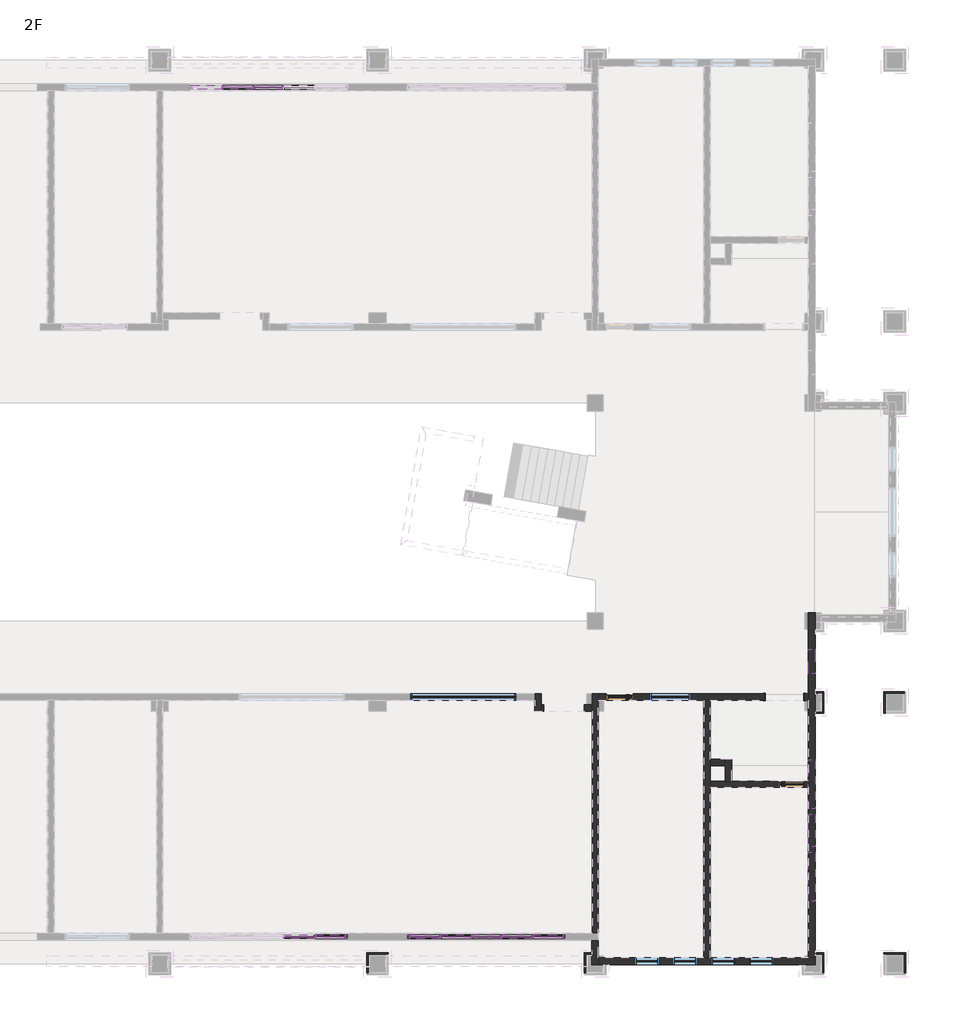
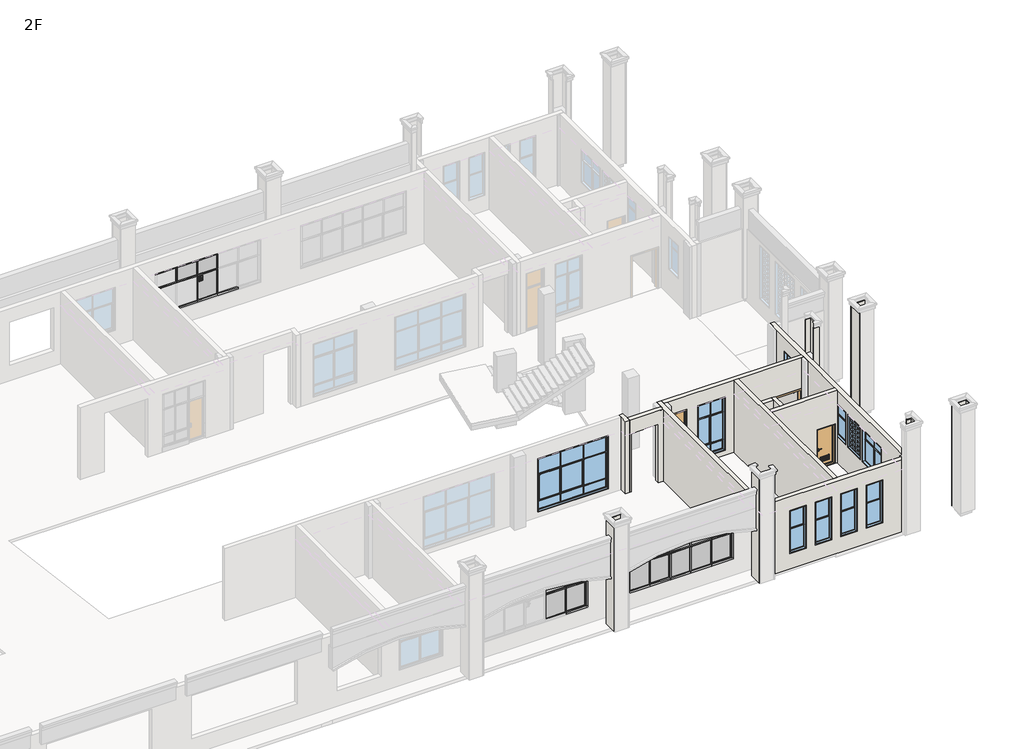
# One storey, part 7 of 16: 47 members, 24 walls, 14 plates, 10 windows, 3 doors.
"""IFC4 building model written with IfcOpenShell, lengths in millimetres."""

from ifc_helpers import new_model, si_unit, frame, origin, place, context, project, spatial, polyline, outline, extrude, faceted_brep, transform, mapped, element, save
from components import dk1_dk1_83e99b34, m2_m2_a1934b10, m3_m3_9c525ee5, member_7564be38, member_1f4d75dd, member_0b7842ad, member_163d5e45, member_ffafc35e, member_2b011958, member_9c26cac3, member_6c42befd, member_a374fdad, plate_f4dba16c, plate_1cc4df2b, plate_4fa5932a, plate_00f9c624, plate_18a10205, plate_7c94d5a9, window_f5fa71fb, lc1_lc1_25eb0bf8, lc2_lc2_cf207e28, lc5_lc5_9ec79463, lc6_lc6_03a52bd1, lc7_lc7_62699857, lc7a_lc7a_525a1188

model = new_model("IFC4")

# Units and contexts
model_context = context("Model", 3, world=origin())
ifc_project = project(units=[si_unit("LENGTHUNIT", "METRE", prefix="MILLI")], contexts=[model_context])

# Site, building, storey
site = spatial("IfcSite", under=ifc_project)
building = spatial("IfcBuilding", under=site)
storey = spatial("IfcBuildingStorey", under=building, Name="2F", Elevation=4200.0)

# Doors
placement = place(None, origin())
dk1_dk1_shape = dk1_dk1_83e99b34(model_context)
element("IfcDoor", 1, ObjectType="DK1 : DK1", at=placement, inside=storey, context=model_context, shape_type="MappedRepresentation", body=[
    mapped(dk1_dk1_shape, transform((81950.0000004, 9800.7769004, 4200.0), x_axis=(-1.0, 0.0, 0.0), y_axis=(0.0, -1.0, 0.0), z_axis=(0.0, 0.0, 1.0))),
])
m2_m2_shape = m2_m2_a1934b10(model_context)
element("IfcDoor", 2, ObjectType="M2 : M2", at=placement, inside=storey, context=model_context, shape_type="MappedRepresentation", body=[
    mapped(m2_m2_shape, transform((75899.9999992, 9800.7769004, 4200.0), x_axis=(1.0, 0.0, 0.0), y_axis=(0.0, 1.0, 0.0), z_axis=(0.0, 0.0, 1.0))),
])
m3_m3_shape = m3_m3_9c525ee5(model_context)
element("IfcDoor", 3, ObjectType="M3 : M3", at=placement, inside=storey, context=model_context, shape_type="MappedRepresentation", body=[
    mapped(m3_m3_shape, transform((82199.9999997, 6600.7769004, 4200.0), x_axis=(-1.0, 0.0, 0.0), y_axis=(0.0, -1.0, 0.0), z_axis=(0.0, 0.0, 1.0))),
])

# Members
member_shape = member_7564be38(model_context)
element("IfcMember", 4, ObjectType="矩形竖梃 : 教学楼 – 矩形竖梃 – 100x150mm", at=placement, inside=storey, context=model_context, shape_type="MappedRepresentation", body=[
    mapped(member_shape, transform((65900.0, 990.0, 7600.0), x_axis=(0.0, 0.0, 1.0), y_axis=(0.0, -1.0, 0.0), z_axis=(1.0, 0.0, 0.0))),
])
element("IfcMember", 5, ObjectType="矩形竖梃 : 教学楼 – 矩形竖梃 – 100x150mm", at=placement, inside=storey, context=model_context, shape_type="MappedRepresentation", body=[
    mapped(member_shape, transform((73899.9999993, 990.0, 7600.0), x_axis=(0.0, 0.0, 1.0), y_axis=(0.0, -1.0, 0.0), z_axis=(1.0, 0.0, 0.0))),
])
element("IfcMember", 6, ObjectType="矩形竖梃 : 教学楼 – 矩形竖梃 – 100x150mm", at=placement, inside=storey, context=model_context, shape_type="MappedRepresentation", body=[
    mapped(member_shape, transform((68099.9999993, 990.0, 5100.0), x_axis=(0.0, 0.0, -1.0), y_axis=(0.0, -1.0, 0.0), z_axis=(-1.0, 0.0, 0.0))),
])
member_2_shape = member_1f4d75dd(model_context)
element("IfcMember", 7, ObjectType="矩形竖梃 : 教学楼 – 矩形竖梃 – 50x150mm", at=placement, inside=storey, context=model_context, shape_type="MappedRepresentation", body=[
    mapped(member_2_shape, transform((70449.9999993, 990.0, 5200.0), x_axis=(1.0, 0.0, 0.0), y_axis=(0.0, -1.0, 0.0), z_axis=(0.0, 0.0, -1.0))),
])
element("IfcMember", 8, ObjectType="矩形竖梃 : 教学楼 – 矩形竖梃 – 50x150mm", at=placement, inside=storey, context=model_context, shape_type="MappedRepresentation", body=[
    mapped(member_2_shape, transform((71549.9999993, 990.0, 5200.0), x_axis=(1.0, 0.0, 0.0), y_axis=(0.0, -1.0, 0.0), z_axis=(0.0, 0.0, -1.0))),
])
member_3_shape = member_0b7842ad(model_context)
element("IfcMember", 9, ObjectType="矩形竖梃 : 教学楼 – 矩形竖梃 – 50x150mm", at=placement, inside=storey, context=model_context, shape_type="MappedRepresentation", body=[
    mapped(member_3_shape, transform((69299.9999993, 990.0, 6650.0), x_axis=(0.0, 0.0, 1.0), y_axis=(0.0, -1.0, 0.0), z_axis=(1.0, 0.0, 0.0))),
])
member_4_shape = member_163d5e45(model_context)
element("IfcMember", 10, ObjectType="矩形竖梃 : 教学楼 – 矩形竖梃 – 50x150mm", at=placement, inside=storey, context=model_context, shape_type="MappedRepresentation", body=[
    mapped(member_4_shape, transform((64700.0, 990.0, 6650.0), x_axis=(0.0, 0.0, 1.0), y_axis=(0.0, -1.0, 0.0), z_axis=(1.0, 0.0, 0.0))),
])
element("IfcMember", 11, ObjectType="矩形竖梃 : 教学楼 – 矩形竖梃 – 50x150mm", at=placement, inside=storey, context=model_context, shape_type="MappedRepresentation", body=[
    mapped(member_4_shape, transform((70449.9999993, 990.0, 6650.0), x_axis=(0.0, 0.0, 1.0), y_axis=(0.0, -1.0, 0.0), z_axis=(1.0, 0.0, 0.0))),
])
element("IfcMember", 12, ObjectType="矩形竖梃 : 教学楼 – 矩形竖梃 – 50x150mm", at=placement, inside=storey, context=model_context, shape_type="MappedRepresentation", body=[
    mapped(member_4_shape, transform((72699.9999993, 990.0, 6650.0), x_axis=(0.0, 0.0, 1.0), y_axis=(0.0, -1.0, 0.0), z_axis=(1.0, 0.0, 0.0))),
])
element("IfcMember", 13, ObjectType="矩形竖梃 : 教学楼 – 矩形竖梃 – 50x150mm", at=placement, inside=storey, context=model_context, shape_type="MappedRepresentation", body=[
    mapped(member_3_shape, transform((71549.9999993, 990.0, 6650.0), x_axis=(0.0, 0.0, 1.0), y_axis=(0.0, -1.0, 0.0), z_axis=(1.0, 0.0, 0.0))),
])
element("IfcMember", 14, ObjectType="矩形竖梃 : 教学楼 – 矩形竖梃 – 50x150mm", at=placement, inside=storey, context=model_context, shape_type="MappedRepresentation", body=[
    mapped(member_3_shape, transform((65800.0, 990.0, 6650.0), x_axis=(0.0, 0.0, 1.0), y_axis=(0.0, -1.0, 0.0), z_axis=(1.0, 0.0, 0.0))),
])
element("IfcMember", 15, ObjectType="矩形竖梃 : 教学楼 – 矩形竖梃 – 50x150mm", at=placement, inside=storey, context=model_context, shape_type="MappedRepresentation", body=[
    mapped(member_3_shape, transform((73799.9999993, 990.0, 6650.0), x_axis=(0.0, 0.0, 1.0), y_axis=(0.0, -1.0, 0.0), z_axis=(1.0, 0.0, 0.0))),
])
member_5_shape = member_ffafc35e(model_context)
element("IfcMember", 16, ObjectType="矩形竖梃 : 教学楼 – 矩形竖梃 – 100x150mm", at=placement, inside=storey, context=model_context, shape_type="MappedRepresentation", body=[
    mapped(member_5_shape, transform((69299.9999993, 990.0, 5100.0), x_axis=(0.0, 0.0, -1.0), y_axis=(0.0, -1.0, 0.0), z_axis=(-1.0, 0.0, 0.0))),
])
member_6_shape = member_2b011958(model_context)
element("IfcMember", 17, ObjectType="矩形竖梃 : 教学楼 – 矩形竖梃 – 100x150mm", at=placement, inside=storey, context=model_context, shape_type="MappedRepresentation", body=[
    mapped(member_6_shape, transform((70449.9999993, 990.0, 5100.0), x_axis=(0.0, 0.0, -1.0), y_axis=(0.0, -1.0, 0.0), z_axis=(-1.0, 0.0, 0.0))),
])
element("IfcMember", 18, ObjectType="矩形竖梃 : 教学楼 – 矩形竖梃 – 100x150mm", at=placement, inside=storey, context=model_context, shape_type="MappedRepresentation", body=[
    mapped(member_5_shape, transform((71549.9999993, 990.0, 5100.0), x_axis=(0.0, 0.0, -1.0), y_axis=(0.0, -1.0, 0.0), z_axis=(-1.0, 0.0, 0.0))),
])
element("IfcMember", 19, ObjectType="矩形竖梃 : 教学楼 – 矩形竖梃 – 100x150mm", at=placement, inside=storey, context=model_context, shape_type="MappedRepresentation", body=[
    mapped(member_shape, transform((64700.0, 990.0, 5100.0), x_axis=(0.0, 0.0, -1.0), y_axis=(0.0, -1.0, 0.0), z_axis=(-1.0, 0.0, 0.0))),
])
element("IfcMember", 20, ObjectType="矩形竖梃 : 教学楼 – 矩形竖梃 – 100x150mm", at=placement, inside=storey, context=model_context, shape_type="MappedRepresentation", body=[
    mapped(member_shape, transform((72699.9999993, 990.0, 5100.0), x_axis=(0.0, 0.0, -1.0), y_axis=(0.0, -1.0, 0.0), z_axis=(-1.0, 0.0, 0.0))),
])
element("IfcMember", 21, ObjectType="矩形竖梃 : 教学楼 – 矩形竖梃 – 100x150mm", at=placement, inside=storey, context=model_context, shape_type="MappedRepresentation", body=[
    mapped(member_shape, transform((69299.9999993, 990.0, 7600.0), x_axis=(0.0, 0.0, 1.0), y_axis=(0.0, -1.0, 0.0), z_axis=(1.0, 0.0, 0.0))),
])
element("IfcMember", 22, ObjectType="矩形竖梃 : 教学楼 – 矩形竖梃 – 100x150mm", at=placement, inside=storey, context=model_context, shape_type="MappedRepresentation", body=[
    mapped(member_5_shape, transform((64700.0, 990.0, 7600.0), x_axis=(0.0, 0.0, 1.0), y_axis=(0.0, -1.0, 0.0), z_axis=(1.0, 0.0, 0.0))),
])
element("IfcMember", 23, ObjectType="矩形竖梃 : 教学楼 – 矩形竖梃 – 100x150mm", at=placement, inside=storey, context=model_context, shape_type="MappedRepresentation", body=[
    mapped(member_5_shape, transform((70449.9999993, 990.0, 7600.0), x_axis=(0.0, 0.0, 1.0), y_axis=(0.0, -1.0, 0.0), z_axis=(1.0, 0.0, 0.0))),
])
element("IfcMember", 24, ObjectType="矩形竖梃 : 教学楼 – 矩形竖梃 – 100x150mm", at=placement, inside=storey, context=model_context, shape_type="MappedRepresentation", body=[
    mapped(member_5_shape, transform((72699.9999993, 990.0, 7600.0), x_axis=(0.0, 0.0, 1.0), y_axis=(0.0, -1.0, 0.0), z_axis=(1.0, 0.0, 0.0))),
])
element("IfcMember", 25, ObjectType="矩形竖梃 : 教学楼 – 矩形竖梃 – 100x150mm", at=placement, inside=storey, context=model_context, shape_type="MappedRepresentation", body=[
    mapped(member_6_shape, transform((71549.9999993, 990.0, 7600.0), x_axis=(0.0, 0.0, 1.0), y_axis=(0.0, -1.0, 0.0), z_axis=(1.0, 0.0, 0.0))),
])
member_7_shape = member_9c26cac3(model_context)
element("IfcMember", 26, ObjectType="矩形竖梃 : 教学楼 – 矩形竖梃 – 50x150mm", at=placement, inside=storey, context=model_context, shape_type="MappedRepresentation", body=[
    mapped(member_7_shape, transform((64700.0, 990.0, 6675.0), x_axis=(1.0, 0.0, 0.0), y_axis=(0.0, -1.0, 0.0), z_axis=(0.0, 0.0, -1.0))),
])
element("IfcMember", 27, ObjectType="矩形竖梃 : 教学楼 – 矩形竖梃 – 50x150mm", at=placement, inside=storey, context=model_context, shape_type="MappedRepresentation", body=[
    mapped(member_7_shape, transform((69299.9999993, 990.0, 6675.0), x_axis=(1.0, 0.0, 0.0), y_axis=(0.0, -1.0, 0.0), z_axis=(0.0, 0.0, -1.0))),
])
element("IfcMember", 28, ObjectType="矩形竖梃 : 教学楼 – 矩形竖梃 – 50x150mm", at=placement, inside=storey, context=model_context, shape_type="MappedRepresentation", body=[
    mapped(member_7_shape, transform((70449.9999993, 990.0, 6675.0), x_axis=(1.0, 0.0, 0.0), y_axis=(0.0, -1.0, 0.0), z_axis=(0.0, 0.0, -1.0))),
])
element("IfcMember", 29, ObjectType="矩形竖梃 : 教学楼 – 矩形竖梃 – 50x150mm", at=placement, inside=storey, context=model_context, shape_type="MappedRepresentation", body=[
    mapped(member_7_shape, transform((71549.9999993, 990.0, 6675.0), x_axis=(1.0, 0.0, 0.0), y_axis=(0.0, -1.0, 0.0), z_axis=(0.0, 0.0, -1.0))),
])
element("IfcMember", 30, ObjectType="矩形竖梃 : 教学楼 – 矩形竖梃 – 50x150mm", at=placement, inside=storey, context=model_context, shape_type="MappedRepresentation", body=[
    mapped(member_7_shape, transform((72699.9999993, 990.0, 6675.0), x_axis=(1.0, 0.0, 0.0), y_axis=(0.0, -1.0, 0.0), z_axis=(0.0, 0.0, -1.0))),
])
member_8_shape = member_6c42befd(model_context)
element("IfcMember", 31, ObjectType="矩形竖梃 : 教学楼 – 矩形竖梃 – 100x150mm", at=placement, inside=storey, context=model_context, shape_type="MappedRepresentation", body=[
    mapped(member_8_shape, transform((68099.9999993, 990.0, 7500.0), x_axis=(-1.0, 0.0, 0.0), y_axis=(0.0, -1.0, 0.0), z_axis=(0.0, 0.0, 1.0))),
])
member_9_shape = member_a374fdad(model_context)
element("IfcMember", 32, ObjectType="矩形竖梃 : 教学楼 – 矩形竖梃 – 100x150mm", at=placement, inside=storey, context=model_context, shape_type="MappedRepresentation", body=[
    mapped(member_9_shape, transform((65900.0, 990.0, 5200.0), x_axis=(1.0, 0.0, 0.0), y_axis=(0.0, -1.0, 0.0), z_axis=(0.0, 0.0, -1.0))),
])
element("IfcMember", 33, ObjectType="矩形竖梃 : 教学楼 – 矩形竖梃 – 100x150mm", at=placement, inside=storey, context=model_context, shape_type="MappedRepresentation", body=[
    mapped(member_9_shape, transform((73899.9999993, 990.0, 5200.0), x_axis=(1.0, 0.0, 0.0), y_axis=(0.0, -1.0, 0.0), z_axis=(0.0, 0.0, -1.0))),
])
element("IfcMember", 34, ObjectType="矩形竖梃 : 教学楼 – 矩形竖梃 – 100x150mm", at=placement, inside=storey, context=model_context, shape_type="MappedRepresentation", body=[
    mapped(member_8_shape, transform((65900.0, 990.0, 6650.0), x_axis=(1.0, 0.0, 0.0), y_axis=(0.0, -1.0, 0.0), z_axis=(0.0, 0.0, -1.0))),
])
element("IfcMember", 35, ObjectType="矩形竖梃 : 教学楼 – 矩形竖梃 – 100x150mm", at=placement, inside=storey, context=model_context, shape_type="MappedRepresentation", body=[
    mapped(member_8_shape, transform((73899.9999993, 990.0, 6650.0), x_axis=(1.0, 0.0, 0.0), y_axis=(0.0, -1.0, 0.0), z_axis=(0.0, 0.0, -1.0))),
])
element("IfcMember", 36, ObjectType="矩形竖梃 : 教学楼 – 矩形竖梃 – 100x150mm", at=placement, inside=storey, context=model_context, shape_type="MappedRepresentation", body=[
    mapped(member_9_shape, transform((68099.9999993, 990.0, 6650.0), x_axis=(-1.0, 0.0, 0.0), y_axis=(0.0, -1.0, 0.0), z_axis=(0.0, 0.0, 1.0))),
])
element("IfcMember", 37, ObjectType="矩形竖梃 : 教学楼 – 矩形竖梃 – 50x150mm", at=placement, inside=storey, context=model_context, shape_type="MappedRepresentation", body=[
    mapped(member_2_shape, transform((62450.0000002, 32210.0, 5200.0), x_axis=(1.0, 0.0, 0.0), y_axis=(0.0, -1.0, 0.0), z_axis=(0.0, 0.0, -1.0))),
])
element("IfcMember", 38, ObjectType="矩形竖梃 : 教学楼 – 矩形竖梃 – 50x150mm", at=placement, inside=storey, context=model_context, shape_type="MappedRepresentation", body=[
    mapped(member_2_shape, transform((63550.0000002, 32210.0, 5200.0), x_axis=(1.0, 0.0, 0.0), y_axis=(0.0, -1.0, 0.0), z_axis=(0.0, 0.0, -1.0))),
])
element("IfcMember", 39, ObjectType="矩形竖梃 : 教学楼 – 矩形竖梃 – 50x150mm", at=placement, inside=storey, context=model_context, shape_type="MappedRepresentation", body=[
    mapped(member_3_shape, transform((61300.0000002, 32210.0, 6650.0), x_axis=(0.0, 0.0, 1.0), y_axis=(0.0, -1.0, 0.0), z_axis=(1.0, 0.0, 0.0))),
])
element("IfcMember", 40, ObjectType="矩形竖梃 : 教学楼 – 矩形竖梃 – 50x150mm", at=placement, inside=storey, context=model_context, shape_type="MappedRepresentation", body=[
    mapped(member_4_shape, transform((62450.0000002, 32210.0, 6650.0), x_axis=(0.0, 0.0, 1.0), y_axis=(0.0, -1.0, 0.0), z_axis=(1.0, 0.0, 0.0))),
])
element("IfcMember", 41, ObjectType="矩形竖梃 : 教学楼 – 矩形竖梃 – 50x150mm", at=placement, inside=storey, context=model_context, shape_type="MappedRepresentation", body=[
    mapped(member_3_shape, transform((63550.0000002, 32210.0, 6650.0), x_axis=(0.0, 0.0, 1.0), y_axis=(0.0, -1.0, 0.0), z_axis=(1.0, 0.0, 0.0))),
])
element("IfcMember", 42, ObjectType="矩形竖梃 : 教学楼 – 矩形竖梃 – 100x150mm", at=placement, inside=storey, context=model_context, shape_type="MappedRepresentation", body=[
    mapped(member_5_shape, transform((61300.0000002, 32210.0, 5100.0), x_axis=(0.0, 0.0, -1.0), y_axis=(0.0, -1.0, 0.0), z_axis=(-1.0, 0.0, 0.0))),
])
element("IfcMember", 43, ObjectType="矩形竖梃 : 教学楼 – 矩形竖梃 – 100x150mm", at=placement, inside=storey, context=model_context, shape_type="MappedRepresentation", body=[
    mapped(member_6_shape, transform((62450.0000002, 32210.0, 5100.0), x_axis=(0.0, 0.0, -1.0), y_axis=(0.0, -1.0, 0.0), z_axis=(-1.0, 0.0, 0.0))),
])
element("IfcMember", 44, ObjectType="矩形竖梃 : 教学楼 – 矩形竖梃 – 100x150mm", at=placement, inside=storey, context=model_context, shape_type="MappedRepresentation", body=[
    mapped(member_5_shape, transform((63550.0000002, 32210.0, 5100.0), x_axis=(0.0, 0.0, -1.0), y_axis=(0.0, -1.0, 0.0), z_axis=(-1.0, 0.0, 0.0))),
])
element("IfcMember", 45, ObjectType="矩形竖梃 : 教学楼 – 矩形竖梃 – 100x150mm", at=placement, inside=storey, context=model_context, shape_type="MappedRepresentation", body=[
    mapped(member_shape, transform((61300.0000002, 32210.0, 7600.0), x_axis=(0.0, 0.0, 1.0), y_axis=(0.0, -1.0, 0.0), z_axis=(1.0, 0.0, 0.0))),
])
element("IfcMember", 46, ObjectType="矩形竖梃 : 教学楼 – 矩形竖梃 – 100x150mm", at=placement, inside=storey, context=model_context, shape_type="MappedRepresentation", body=[
    mapped(member_5_shape, transform((62450.0000002, 32210.0, 7600.0), x_axis=(0.0, 0.0, 1.0), y_axis=(0.0, -1.0, 0.0), z_axis=(1.0, 0.0, 0.0))),
])
element("IfcMember", 47, ObjectType="矩形竖梃 : 教学楼 – 矩形竖梃 – 100x150mm", at=placement, inside=storey, context=model_context, shape_type="MappedRepresentation", body=[
    mapped(member_6_shape, transform((63550.0000002, 32210.0, 7600.0), x_axis=(0.0, 0.0, 1.0), y_axis=(0.0, -1.0, 0.0), z_axis=(1.0, 0.0, 0.0))),
])
element("IfcMember", 48, ObjectType="矩形竖梃 : 教学楼 – 矩形竖梃 – 50x150mm", at=placement, inside=storey, context=model_context, shape_type="MappedRepresentation", body=[
    mapped(member_7_shape, transform((61300.0000002, 32210.0, 6675.0), x_axis=(1.0, 0.0, 0.0), y_axis=(0.0, -1.0, 0.0), z_axis=(0.0, 0.0, -1.0))),
])
element("IfcMember", 49, ObjectType="矩形竖梃 : 教学楼 – 矩形竖梃 – 50x150mm", at=placement, inside=storey, context=model_context, shape_type="MappedRepresentation", body=[
    mapped(member_7_shape, transform((62450.0000002, 32210.0, 6675.0), x_axis=(1.0, 0.0, 0.0), y_axis=(0.0, -1.0, 0.0), z_axis=(0.0, 0.0, -1.0))),
])
element("IfcMember", 50, ObjectType="矩形竖梃 : 教学楼 – 矩形竖梃 – 50x150mm", at=placement, inside=storey, context=model_context, shape_type="MappedRepresentation", body=[
    mapped(member_7_shape, transform((63550.0000002, 32210.0, 6675.0), x_axis=(1.0, 0.0, 0.0), y_axis=(0.0, -1.0, 0.0), z_axis=(0.0, 0.0, -1.0))),
])

# Plates
plate_shape = plate_f4dba16c(model_context)
element("IfcPlate", 51, ObjectType="系统嵌板 : 玻璃", at=placement, inside=storey, context=model_context, shape_type="MappedRepresentation", body=[
    mapped(plate_shape, transform((70999.9999993, 990.0, 5200.0), x_axis=(1.0, 0.0, 0.0), y_axis=(0.0, 1.0, 0.0), z_axis=(0.0, 0.0, 1.0))),
])
plate_2_shape = plate_1cc4df2b(model_context)
element("IfcPlate", 52, ObjectType="系统嵌板 : 玻璃", at=placement, inside=storey, context=model_context, shape_type="MappedRepresentation", body=[
    mapped(plate_2_shape, transform((65262.5, 990.0, 6675.0), x_axis=(1.0, 0.0, 0.0), y_axis=(0.0, 1.0, 0.0), z_axis=(0.0, 0.0, 1.0))),
])
element("IfcPlate", 53, ObjectType="系统嵌板 : 玻璃", at=placement, inside=storey, context=model_context, shape_type="MappedRepresentation", body=[
    mapped(plate_2_shape, transform((68737.4999993, 990.0, 6675.0), x_axis=(1.0, 0.0, 0.0), y_axis=(0.0, 1.0, 0.0), z_axis=(0.0, 0.0, 1.0))),
])
element("IfcPlate", 54, ObjectType="系统嵌板 : 玻璃", at=placement, inside=storey, context=model_context, shape_type="MappedRepresentation", body=[
    mapped(plate_2_shape, transform((73262.4999993, 990.0, 6675.0), x_axis=(1.0, 0.0, 0.0), y_axis=(0.0, 1.0, 0.0), z_axis=(0.0, 0.0, 1.0))),
])
plate_3_shape = plate_4fa5932a(model_context)
element("IfcPlate", 55, ObjectType="系统嵌板 : 玻璃", at=placement, inside=storey, context=model_context, shape_type="MappedRepresentation", body=[
    mapped(plate_3_shape, transform((64125.0, 990.0, 6675.0), x_axis=(1.0, 0.0, 0.0), y_axis=(0.0, 1.0, 0.0), z_axis=(0.0, 0.0, 1.0))),
])
element("IfcPlate", 56, ObjectType="系统嵌板 : 玻璃", at=placement, inside=storey, context=model_context, shape_type="MappedRepresentation", body=[
    mapped(plate_3_shape, transform((69874.9999993, 990.0, 6675.0), x_axis=(1.0, 0.0, 0.0), y_axis=(0.0, 1.0, 0.0), z_axis=(0.0, 0.0, 1.0))),
])
element("IfcPlate", 57, ObjectType="系统嵌板 : 玻璃", at=placement, inside=storey, context=model_context, shape_type="MappedRepresentation", body=[
    mapped(plate_3_shape, transform((72124.9999993, 990.0, 6675.0), x_axis=(1.0, 0.0, 0.0), y_axis=(0.0, 1.0, 0.0), z_axis=(0.0, 0.0, 1.0))),
])
plate_4_shape = plate_00f9c624(model_context)
element("IfcPlate", 58, ObjectType="系统嵌板 : 玻璃", at=placement, inside=storey, context=model_context, shape_type="MappedRepresentation", body=[
    mapped(plate_4_shape, transform((70999.9999993, 990.0, 6675.0), x_axis=(1.0, 0.0, 0.0), y_axis=(0.0, 1.0, 0.0), z_axis=(0.0, 0.0, 1.0))),
])
plate_5_shape = plate_18a10205(model_context)
element("IfcPlate", 59, ObjectType="教学楼 - 窗嵌板：双扇推拉窗 : 教学楼 - 窗嵌板：双扇推拉窗", at=placement, inside=storey, context=model_context, shape_type="MappedRepresentation", body=[
    mapped(plate_5_shape, transform((69312.4999993, 990.0, 5200.0), x_axis=(1.0, 0.0, 0.0), y_axis=(0.0, 1.0, 0.0), z_axis=(0.0, 0.0, 1.0))),
])
element("IfcPlate", 60, ObjectType="教学楼 - 窗嵌板：双扇推拉窗 : 教学楼 - 窗嵌板：双扇推拉窗", at=placement, inside=storey, context=model_context, shape_type="MappedRepresentation", body=[
    mapped(plate_5_shape, transform((64687.5, 990.0, 5200.0), x_axis=(1.0, 0.0, 0.0), y_axis=(0.0, 1.0, 0.0), z_axis=(0.0, 0.0, 1.0))),
])
element("IfcPlate", 61, ObjectType="教学楼 - 窗嵌板：双扇推拉窗 : 教学楼 - 窗嵌板：双扇推拉窗", at=placement, inside=storey, context=model_context, shape_type="MappedRepresentation", body=[
    mapped(plate_5_shape, transform((72687.4999993, 990.0, 5200.0), x_axis=(1.0, 0.0, 0.0), y_axis=(0.0, 1.0, 0.0), z_axis=(0.0, 0.0, 1.0))),
])
element("IfcPlate", 62, ObjectType="系统嵌板 : 玻璃", at=placement, inside=storey, context=model_context, shape_type="MappedRepresentation", body=[
    mapped(plate_3_shape, transform((61875.0000002, 32210.0, 6675.0), x_axis=(1.0, 0.0, 0.0), y_axis=(0.0, 1.0, 0.0), z_axis=(0.0, 0.0, 1.0))),
])
element("IfcPlate", 63, ObjectType="系统嵌板 : 玻璃", at=placement, inside=storey, context=model_context, shape_type="MappedRepresentation", body=[
    mapped(plate_4_shape, transform((63000.0000002, 32210.0, 6675.0), x_axis=(1.0, 0.0, 0.0), y_axis=(0.0, 1.0, 0.0), z_axis=(0.0, 0.0, 1.0))),
])
plate_6_shape = plate_7c94d5a9(model_context)
element("IfcPlate", 64, ObjectType="教学楼 - 窗嵌板：外贴消防通道 : 教学楼 - 窗嵌板：外贴消防通道", at=placement, inside=storey, context=model_context, shape_type="MappedRepresentation", body=[
    mapped(plate_6_shape, transform((63000.0000002, 32210.0, 5200.0), x_axis=(1.0, 0.0, 0.0), y_axis=(0.0, 1.0, 0.0), z_axis=(0.0, 0.0, 1.0))),
])

# Walls
element("IfcWall", 65, ObjectType="教学楼 – 饰面砖外墙 – 200mm", at=placement, inside=storey, context=model_context, shape_type="Brep", body=[
    faceted_brep([(74867.0, 875.0, 4200.0), (74867.0, 399.3909279, 4200.0), (74867.0, 349.3909279, 4200.0), (74867.0, 300.0, 4200.0), (74867.0, -32.6954642, 4200.0), (74867.0, -32.6954642, 8400.0), (74867.0, 300.0, 8400.0), (74867.0, 875.0, 8400.0), (75117.0, 875.0, 4200.0), (75117.0, 875.0, 8400.0), (75117.0, 300.0, 8400.0), (75117.0, 217.3045358, 8400.0), (75117.0, -32.6954642, 8400.0), (75117.0, -32.6954642, 4200.0), (75117.0, 217.3045358, 4200.0), (75117.0, 300.0, 4200.0)], [[[0, 1, 2, 3, 4, 5, 6, 7]], [[8, 9, 10, 11, 12, 13, 14, 15]], [[4, 3, 2, 1, 0, 8, 15, 14, 13]], [[7, 6, 5, 12, 11, 10, 9]], [[0, 7, 9, 8]], [[5, 4, 13, 12]]]),
])
element("IfcWall", 66, ObjectType="教学楼 – 饰面砖外墙 – 200mm", at=placement, inside=storey, context=model_context, shape_type="Brep", body=[
    faceted_brep([(75117.0, -32.6954642, 4200.0), (75300.0, -32.6954642, 4200.0), (75350.0, -32.6954642, 4200.0), (75400.0, -32.6954642, 4200.0), (82700.0, -32.6954642, 4200.0), (83082.9999995, -32.6954642, 4200.0), (83082.9999995, -32.6954642, 8400.0), (82700.0, -32.6954642, 8400.0), (75300.0, -32.6954642, 8400.0), (75117.0, -32.6954642, 8400.0), (80649.9999998, -32.6954642, 5100.0), (80649.9999998, -32.6954642, 7600.0), (81549.9999998, -32.6954642, 7600.0), (81549.9999998, -32.6954642, 5100.0), (79250.0000022, -32.6954642, 5100.0), (79250.0000022, -32.6954642, 7600.0), (80150.0000022, -32.6954642, 7600.0), (80150.0000022, -32.6954642, 5100.0), (78750.0000022, -32.6954642, 5100.0), (77850.0000022, -32.6954642, 5100.0), (77850.0000022, -32.6954642, 7600.0), (78750.0000022, -32.6954642, 7600.0), (77350.0000046, -32.6954642, 5100.0), (76450.0000046, -32.6954642, 5100.0), (76450.0000046, -32.6954642, 7600.0), (77350.0000046, -32.6954642, 7600.0), (75117.0, 217.3045358, 4200.0), (75117.0, 217.3045358, 8400.0), (75300.0, 217.3045358, 8400.0), (78983.0000003, 217.3045358, 8400.0), (79217.0000003, 217.3045358, 8400.0), (82700.0, 217.3045358, 8400.0), (82832.9999995, 217.3045358, 8400.0), (83082.9999995, 217.3045358, 8400.0), (83082.9999995, 217.3045358, 4200.0), (82832.9999995, 217.3045358, 4200.0), (82700.0, 217.3045358, 4200.0), (79217.0000003, 217.3045358, 4200.0), (78983.0000003, 217.3045358, 4200.0), (75300.0, 217.3045358, 4200.0), (80649.9999998, 217.3045358, 5100.0), (81549.9999998, 217.3045358, 5100.0), (81549.9999998, 217.3045358, 7600.0), (80649.9999998, 217.3045358, 7600.0), (79250.0000022, 217.3045358, 5100.0), (80150.0000022, 217.3045358, 5100.0), (80150.0000022, 217.3045358, 7600.0), (79250.0000022, 217.3045358, 7600.0), (78750.0000022, 217.3045358, 5100.0), (78750.0000022, 217.3045358, 7600.0), (77850.0000022, 217.3045358, 7600.0), (77850.0000022, 217.3045358, 5100.0), (77350.0000046, 217.3045358, 5100.0), (77350.0000046, 217.3045358, 7600.0), (76450.0000046, 217.3045358, 7600.0), (76450.0000046, 217.3045358, 5100.0)], [[[0, 1, 2, 3, 4, 5, 6, 7, 8, 9], [10, 11, 12, 13], [14, 15, 16, 17], [18, 19, 20, 21], [22, 23, 24, 25]], [[26, 27, 28, 29, 30, 31, 32, 33, 34, 35, 36, 37, 38, 39], [40, 41, 42, 43], [44, 45, 46, 47], [48, 49, 50, 51], [52, 53, 54, 55]], [[5, 4, 3, 2, 1, 0, 26, 39, 38, 37, 36, 35, 34]], [[9, 8, 7, 6, 33, 32, 31, 30, 29, 28, 27]], [[0, 9, 27, 26]], [[6, 5, 34, 33]], [[11, 10, 40, 43]], [[12, 11, 43, 42]], [[13, 12, 42, 41]], [[10, 13, 41, 40]], [[15, 14, 44, 47]], [[16, 15, 47, 46]], [[17, 16, 46, 45]], [[14, 17, 45, 44]], [[49, 48, 18, 21]], [[50, 49, 21, 20]], [[51, 50, 20, 19]], [[48, 51, 19, 18]], [[53, 52, 22, 25]], [[54, 53, 25, 24]], [[55, 54, 24, 23]], [[52, 55, 23, 22]]]),
])
element("IfcWall", 67, ObjectType="教学楼 – 饰面砖外墙 – 200mm", at=placement, inside=storey, context=model_context, shape_type="Brep", body=[
    faceted_brep([(83082.9999995, 217.3045358, 4200.0), (83082.9999995, 300.0, 4200.0), (83082.9999995, 9300.0, 4200.0), (83082.9999995, 9900.0, 4200.0), (83082.9999995, 12300.0, 4200.0), (83082.9999995, 12566.6954636, 4200.0), (83082.9999995, 12816.6954636, 4200.0), (83082.9999995, 12900.0, 4200.0), (83082.9999995, 12900.0, 8400.0), (83082.9999995, 12816.6954636, 8400.0), (83082.9999995, 12566.6954636, 8400.0), (83082.9999995, 12300.0, 8400.0), (83082.9999995, 9900.0, 8400.0), (83082.9999995, 9300.0, 8400.0), (83082.9999995, 300.0, 8400.0), (83082.9999995, 217.3045358, 8400.0), (83082.9999995, 5500.1677972, 5700.0), (83082.9999995, 4300.1677972, 5700.0), (83082.9999995, 4300.1677972, 7600.0), (83082.9999995, 5500.1677972, 7600.0), (83082.9999995, 10649.6954632, 5700.0), (83082.9999995, 10649.6954632, 7600.0), (83082.9999995, 11549.6954632, 7600.0), (83082.9999995, 11549.6954632, 5700.0), (83082.9999995, 2300.1678289, 5700.0), (83082.9999995, 2300.1678289, 7600.0), (83082.9999995, 4100.1678289, 7600.0), (83082.9999995, 4100.1678289, 5700.0), (83082.9999995, 7500.1678287, 5700.0), (83082.9999995, 5700.1678287, 5700.0), (83082.9999995, 5700.1678287, 7600.0), (83082.9999995, 7500.1678287, 7600.0), (82832.9999995, 217.3045358, 4200.0), (82832.9999995, 217.3045358, 8400.0), (82832.9999995, 300.0, 8400.0), (82832.9999995, 6483.7769004, 8400.0), (82832.9999995, 6717.7769004, 8400.0), (82832.9999995, 9300.0, 8400.0), (82832.9999995, 9683.7769004, 8400.0), (82832.9999995, 9917.7769004, 8400.0), (82832.9999995, 12300.0, 8400.0), (82832.9999995, 12900.0, 8400.0), (82832.9999995, 12900.0, 4200.0), (82832.9999995, 12300.0, 4200.0), (82832.9999995, 9917.7769004, 4200.0), (82832.9999995, 9683.7769004, 4200.0), (82832.9999995, 9300.0, 4200.0), (82832.9999995, 6717.7769004, 4200.0), (82832.9999995, 6483.7769004, 4200.0), (82832.9999995, 300.0, 4200.0), (82832.9999995, 5500.1677972, 5700.0), (82832.9999995, 5500.1677972, 7600.0), (82832.9999995, 4300.1677972, 7600.0), (82832.9999995, 4300.1677972, 5700.0), (82832.9999995, 10649.6954632, 5700.0), (82832.9999995, 11549.6954632, 5700.0), (82832.9999995, 11549.6954632, 7600.0), (82832.9999995, 10649.6954632, 7600.0), (82832.9999995, 2300.1678289, 5700.0), (82832.9999995, 4100.1678289, 5700.0), (82832.9999995, 4100.1678289, 7600.0), (82832.9999995, 2300.1678289, 7600.0), (82832.9999995, 7500.1678287, 5700.0), (82832.9999995, 7500.1678287, 7600.0), (82832.9999995, 5700.1678287, 7600.0), (82832.9999995, 5700.1678287, 5700.0)], [[[0, 1, 2, 3, 4, 5, 6, 7, 8, 9, 10, 11, 12, 13, 14, 15], [16, 17, 18, 19], [20, 21, 22, 23], [24, 25, 26, 27], [28, 29, 30, 31]], [[32, 33, 34, 35, 36, 37, 38, 39, 40, 41, 42, 43, 44, 45, 46, 47, 48, 49], [50, 51, 52, 53], [54, 55, 56, 57], [58, 59, 60, 61], [62, 63, 64, 65]], [[7, 6, 5, 4, 3, 2, 1, 0, 32, 49, 48, 47, 46, 45, 44, 43, 42]], [[8, 7, 42, 41]], [[15, 14, 13, 12, 11, 10, 9, 8, 41, 40, 39, 38, 37, 36, 35, 34, 33]], [[0, 15, 33, 32]], [[51, 50, 16, 19]], [[52, 51, 19, 18]], [[53, 52, 18, 17]], [[50, 53, 17, 16]], [[21, 20, 54, 57]], [[22, 21, 57, 56]], [[23, 22, 56, 55]], [[20, 23, 55, 54]], [[25, 24, 58, 61]], [[26, 25, 61, 60]], [[27, 26, 60, 59]], [[24, 27, 59, 58]], [[63, 62, 28, 31]], [[64, 63, 31, 30]], [[65, 64, 30, 29]], [[62, 65, 29, 28]]]),
])
element("IfcWall", 68, ObjectType="教学楼 – 涂料内墙 – 200mm", at=placement, inside=storey, context=model_context, shape_type="Brep", body=[
    faceted_brep([(75117.0, 1125.0, 4200.0), (75117.0, 9283.0, 4200.0), (75117.0, 9683.7769004, 4200.0), (75117.0, 9917.7769004, 4200.0), (75117.0, 9917.7769004, 8400.0), (75117.0, 9683.7769004, 8400.0), (75117.0, 9283.0, 8400.0), (75117.0, 1125.0, 8400.0), (74883.0, 1125.0, 4200.0), (74883.0, 1125.0, 8400.0), (74883.0, 9283.0, 8400.0), (74883.0, 9283.2768989, 8400.0), (74883.0, 9517.2768989, 8400.0), (74883.0, 9917.0, 8400.0), (74883.0, 9917.7769004, 8400.0), (74883.0, 9917.7769004, 4200.0), (74883.0, 9917.0, 4200.0), (74883.0, 9517.2768989, 4200.0), (74883.0, 9283.2768989, 4200.0), (74883.0, 9283.0, 4200.0)], [[[0, 1, 2, 3, 4, 5, 6, 7]], [[8, 9, 10, 11, 12, 13, 14, 15, 16, 17, 18, 19]], [[3, 2, 1, 0, 8, 19, 18, 17, 16, 15]], [[7, 6, 5, 4, 14, 13, 12, 11, 10, 9]], [[4, 3, 15, 14]], [[0, 7, 9, 8]]]),
])
element("IfcWall", 69, ObjectType="教学楼 – 涂料内墙 – 200mm", at=placement, inside=storey, context=model_context, shape_type="Brep", body=[
    faceted_brep([(79217.0000003, 217.3045358, 4200.0), (79217.0000003, 6483.7769004, 4200.0), (79217.0000003, 6717.7769004, 4200.0), (79217.0000003, 7283.7769004, 4200.0), (79217.0000003, 7517.7769004, 4200.0), (79217.0000003, 9683.7769004, 4200.0), (79217.0000003, 9683.7769004, 8400.0), (79217.0000003, 7517.7769004, 8400.0), (79217.0000003, 7283.7769004, 8400.0), (79217.0000003, 6717.7769004, 8400.0), (79217.0000003, 6483.7769004, 8400.0), (79217.0000003, 217.3045358, 8400.0), (78983.0000003, 217.3045358, 4200.0), (78983.0000003, 217.3045358, 8400.0), (78983.0000003, 9683.7769004, 8400.0), (78983.0000003, 9683.7769004, 4200.0)], [[[0, 1, 2, 3, 4, 5, 6, 7, 8, 9, 10, 11]], [[12, 13, 14, 15]], [[5, 4, 3, 2, 1, 0, 12, 15]], [[11, 10, 9, 8, 7, 6, 14, 13]], [[6, 5, 15, 14]], [[0, 11, 13, 12]]]),
])
element("IfcWall", 70, ObjectType="教学楼 – 涂料内墙 – 200mm", at=placement, inside=storey, context=model_context, shape_type="Brep", body=[
    faceted_brep([(82832.9999995, 6483.7769004, 8400.0), (79217.0000003, 6483.7769004, 8400.0), (79217.0000003, 6483.7769004, 4200.0), (81699.9999997, 6483.7769004, 4200.0), (81699.9999997, 6483.7769004, 6500.0), (82699.9999997, 6483.7769004, 6500.0), (82699.9999997, 6483.7769004, 4200.0), (82832.9999995, 6483.7769004, 4200.0), (79217.0000003, 6717.7769004, 8400.0), (79782.9999995, 6717.7769004, 8400.0), (80016.9999995, 6717.7769004, 8400.0), (82832.9999995, 6717.7769004, 8400.0), (82832.9999995, 6717.7769004, 4200.0), (82699.9999997, 6717.7769004, 4200.0), (82699.9999997, 6717.7769004, 6500.0), (81699.9999997, 6717.7769004, 6500.0), (81699.9999997, 6717.7769004, 4200.0), (80016.9999995, 6717.7769004, 4200.0), (79782.9999995, 6717.7769004, 4200.0), (79217.0000003, 6717.7769004, 4200.0)], [[[0, 1, 2, 3, 4, 5, 6, 7]], [[8, 9, 10, 11, 12, 13, 14, 15, 16, 17, 18, 19]], [[2, 19, 18, 17, 16, 3]], [[12, 7, 6, 13]], [[1, 0, 11, 10, 9, 8]], [[2, 1, 8, 19]], [[0, 7, 12, 11]], [[15, 4, 3, 16]], [[4, 15, 14, 5]], [[5, 14, 13, 6]]]),
])
element("IfcWall", 71, ObjectType="教学楼 – 涂料内墙 – 200mm", at=placement, inside=storey, context=model_context, shape_type="Brep", body=[
    faceted_brep([(82832.9999995, 9683.7769004, 8400.0), (82700.0, 9683.7769004, 8400.0), (79217.0000003, 9683.7769004, 8400.0), (78983.0000003, 9683.7769004, 8400.0), (75317.0, 9683.7769004, 8400.0), (75117.0, 9683.7769004, 8400.0), (75117.0, 9683.7769004, 4200.0), (75317.0, 9683.7769004, 4200.0), (75399.9999992, 9683.7769004, 4200.0), (75399.9999992, 9683.7769004, 7600.0), (76399.9999992, 9683.7769004, 7600.0), (76399.9999992, 9683.7769004, 4200.0), (78983.0000003, 9683.7769004, 4200.0), (79217.0000003, 9683.7769004, 4200.0), (81200.0000004, 9683.7769004, 4200.0), (81200.0000004, 9683.7769004, 6600.0), (82700.0000004, 9683.7769004, 6600.0), (82700.0000004, 9683.7769004, 4200.0), (82832.9999995, 9683.7769004, 4200.0), (78499.9999937, 9683.7769004, 4500.0), (76999.9999937, 9683.7769004, 4500.0), (76999.9999937, 9683.7769004, 7600.0), (78499.9999937, 9683.7769004, 7600.0), (75117.0, 9917.7769004, 8400.0), (82832.9999995, 9917.7769004, 8400.0), (82832.9999995, 9917.7769004, 4200.0), (82700.0000004, 9917.7769004, 4200.0), (82700.0000004, 9917.7769004, 6600.0), (81200.0000004, 9917.7769004, 6600.0), (81200.0000004, 9917.7769004, 4200.0), (76399.9999992, 9917.7769004, 4200.0), (76399.9999992, 9917.7769004, 7600.0), (75399.9999992, 9917.7769004, 7600.0), (75399.9999992, 9917.7769004, 4200.0), (75117.0, 9917.7769004, 4200.0), (78499.9999937, 9917.7769004, 4500.0), (78499.9999937, 9917.7769004, 7600.0), (76999.9999937, 9917.7769004, 7600.0), (76999.9999937, 9917.7769004, 4500.0)], [[[0, 1, 2, 3, 4, 5, 6, 7, 8, 9, 10, 11, 12, 13, 14, 15, 16, 17, 18], [19, 20, 21, 22]], [[23, 24, 25, 26, 27, 28, 29, 30, 31, 32, 33, 34], [35, 36, 37, 38]], [[6, 34, 33, 8, 7]], [[25, 18, 17, 26]], [[29, 14, 13, 12, 11, 30]], [[5, 4, 3, 2, 1, 0, 24, 23]], [[6, 5, 23, 34]], [[0, 18, 25, 24]], [[28, 15, 14, 29]], [[15, 28, 27, 16]], [[16, 27, 26, 17]], [[36, 35, 19, 22]], [[37, 36, 22, 21]], [[38, 37, 21, 20]], [[35, 38, 20, 19]], [[10, 31, 30, 11]], [[31, 10, 9, 32]], [[32, 9, 8, 33]]]),
])
element("IfcWall", 72, ObjectType="教学楼 – 涂料内墙 – 200mm", at=placement, inside=storey, context=model_context, shape_type="Brep", body=[
    faceted_brep([(74883.0, 9283.2768989, 8400.0), (74683.0, 9283.2768989, 8400.0), (73017.0, 9283.2768989, 8400.0), (73017.0, 9283.2768989, 4200.0), (73099.9999991, 9283.2768989, 4200.0), (73099.9999991, 9283.2768989, 7600.0), (74599.9999991, 9283.2768989, 7600.0), (74599.9999991, 9283.2768989, 4200.0), (74683.0, 9283.2768989, 4200.0), (74883.0, 9283.2768989, 4200.0), (73017.0, 9517.2768989, 8400.0), (74683.0, 9517.2768989, 8400.0), (74883.0, 9517.2768989, 8400.0), (74883.0, 9517.2768989, 4200.0), (74683.0, 9517.2768989, 4200.0), (74599.9999991, 9517.2768989, 4200.0), (74599.9999991, 9517.2768989, 7600.0), (73099.9999991, 9517.2768989, 7600.0), (73099.9999991, 9517.2768989, 4200.0), (73017.0, 9517.2768989, 4200.0)], [[[0, 1, 2, 3, 4, 5, 6, 7, 8, 9]], [[10, 11, 12, 13, 14, 15, 16, 17, 18, 19]], [[3, 19, 18, 4]], [[13, 9, 8, 7, 15, 14]], [[2, 1, 0, 12, 11, 10]], [[3, 2, 10, 19]], [[0, 9, 13, 12]], [[6, 16, 15, 7]], [[16, 6, 5, 17]], [[17, 5, 4, 18]]]),
])
element("IfcWall", 73, ObjectType="教学楼 – 涂料内墙 – 200mm", at=placement, inside=storey, context=model_context, shape_type="Brep", body=[
    faceted_brep([(73017.0, 9283.2768989, 4200.0), (73017.0, 9517.2768989, 4200.0), (73017.0, 9917.3045361, 4200.0), (73017.0, 9917.3045361, 8400.0), (73017.0, 9517.2768989, 8400.0), (73017.0, 9283.2768989, 8400.0), (72783.0, 9283.2768989, 4200.0), (72783.0, 9283.2768989, 8400.0), (72783.0, 9683.3045361, 8400.0), (72783.0, 9917.3045361, 8400.0), (72783.0, 9917.3045361, 4200.0), (72783.0, 9683.3045361, 4200.0)], [[[0, 1, 2, 3, 4, 5]], [[6, 7, 8, 9, 10, 11]], [[2, 1, 0, 6, 11, 10]], [[5, 4, 3, 9, 8, 7]], [[0, 5, 7, 6]], [[3, 2, 10, 9]]]),
])
element("IfcWall", 74, ObjectType="教学楼 – 涂料内墙 – 200mm", at=placement, inside=storey, context=model_context, shape_type="Brep", body=[
    faceted_brep([(80016.9999995, 6717.7769004, 4200.0), (80016.9999995, 7517.7769004, 4200.0), (80016.9999995, 7517.7769004, 8400.0), (80016.9999995, 6717.7769004, 8400.0), (79782.9999995, 6717.7769004, 4200.0), (79782.9999995, 6717.7769004, 8400.0), (79782.9999995, 7283.7769004, 8400.0), (79782.9999995, 7517.7769004, 8400.0), (79782.9999995, 7517.7769004, 4200.0), (79782.9999995, 7283.7769004, 4200.0)], [[[0, 1, 2, 3]], [[4, 5, 6, 7, 8, 9]], [[1, 0, 4, 9, 8]], [[3, 2, 7, 6, 5]], [[2, 1, 8, 7]], [[0, 3, 5, 4]]]),
])
element("IfcWall", 75, ObjectType="教学楼 – 涂料内墙 – 200mm", at=placement, inside=storey, context=model_context, shape_type="SweptSolid", body=[
    extrude(outline(polyline([(79217.0000003, 7517.7769004), (79782.9999995, 7517.7769004), (79782.9999995, 7283.7769004), (79217.0000003, 7283.7769004), (79217.0000003, 7517.7769004)])), frame((0.0, 0.0, 4200.0), z_axis=(0.0, 0.0, 1.0), x_axis=(1.0, 0.0, 0.0)), (0.0, 0.0, 1.0), 4200.0),
])
element("IfcWall", 76, ObjectType="教学楼 - 浅驼色装饰板 - 50mm", at=placement, inside=storey, context=model_context, shape_type="Brep", body=[
    faceted_brep([(86350.0, 400.0, 4400.0), (86350.0, 350.0, 4400.0), (86350.0, -350.0, 4400.0), (86350.0, -350.0, 10300.0), (86350.0, 350.0, 10300.0), (86350.0, 400.0, 10300.0), (86400.0, 400.0, 4400.0), (86400.0, 400.0, 10300.0), (86400.0, -350.0, 10300.0), (86400.0, -350.0, 4400.0)], [[[0, 1, 2, 3, 4, 5]], [[6, 7, 8, 9]], [[2, 1, 0, 6, 9]], [[5, 4, 3, 8, 7]], [[0, 5, 7, 6]], [[3, 2, 9, 8]]]),
])
element("IfcWall", 77, ObjectType="教学楼 - 浅驼色装饰板 - 50mm", at=placement, inside=storey, context=model_context, shape_type="Brep", body=[
    faceted_brep([(85600.0, 350.0, 4400.0), (85650.0, 350.0, 4400.0), (86350.0, 350.0, 4400.0), (86350.0, 350.0, 10300.0), (85650.0, 350.0, 10300.0), (85600.0, 350.0, 10300.0), (85600.0, 400.0, 4400.0), (85600.0, 400.0, 10300.0), (86350.0, 400.0, 10300.0), (86350.0, 400.0, 4400.0)], [[[0, 1, 2, 3, 4, 5]], [[6, 7, 8, 9]], [[2, 1, 0, 6, 9]], [[5, 4, 3, 8, 7]], [[0, 5, 7, 6]], [[3, 2, 9, 8]]]),
])
element("IfcWall", 78, ObjectType="教学楼 - 浅驼色装饰板 - 50mm", at=placement, inside=storey, context=model_context, shape_type="Brep", body=[
    faceted_brep([(85600.0, 9950.0, 4400.0), (85650.0, 9950.0, 4400.0), (86350.0, 9950.0, 4400.0), (86350.0, 9950.0, 10300.0), (85650.0, 9950.0, 10300.0), (85600.0, 9950.0, 10300.0), (85600.0, 10000.0, 4400.0), (85600.0, 10000.0, 10300.0), (86350.0, 10000.0, 10300.0), (86350.0, 10000.0, 4400.0)], [[[0, 1, 2, 3, 4, 5]], [[6, 7, 8, 9]], [[2, 1, 0, 6, 9]], [[5, 4, 3, 8, 7]], [[0, 5, 7, 6]], [[3, 2, 9, 8]]]),
])
element("IfcWall", 79, ObjectType="教学楼 - 浅驼色装饰板 - 50mm", at=placement, inside=storey, context=model_context, shape_type="Brep", body=[
    faceted_brep([(85650.0, 9200.0, 4400.0), (85650.0, 9250.0, 4400.0), (85650.0, 9950.0, 4400.0), (85650.0, 9950.0, 10300.0), (85650.0, 9250.0, 10300.0), (85650.0, 9200.0, 10300.0), (85600.0, 9200.0, 4400.0), (85600.0, 9200.0, 10300.0), (85600.0, 9950.0, 10300.0), (85600.0, 9950.0, 4400.0)], [[[0, 1, 2, 3, 4, 5]], [[6, 7, 8, 9]], [[2, 1, 0, 6, 9]], [[5, 4, 3, 8, 7]], [[0, 5, 7, 6]], [[3, 2, 9, 8]]]),
])
element("IfcWall", 80, ObjectType="教学楼 - 浅驼色装饰板 - 50mm", at=placement, inside=storey, context=model_context, shape_type="Brep", body=[
    faceted_brep([(83400.0, -350.0, 4200.0), (83400.0, 400.0, 4200.0), (83400.0, 400.0, 10300.0), (83400.0, -350.0, 10300.0), (83350.0, -350.0, 4200.0), (83350.0, -350.0, 10300.0), (83350.0, 350.0, 10300.0), (83350.0, 400.0, 10300.0), (83350.0, 400.0, 4200.0), (83350.0, 350.0, 4200.0)], [[[0, 1, 2, 3]], [[4, 5, 6, 7, 8, 9]], [[1, 0, 4, 9, 8]], [[3, 2, 7, 6, 5]], [[0, 3, 5, 4]], [[2, 1, 8, 7]]]),
])
element("IfcWall", 81, ObjectType="教学楼 - 浅驼色装饰板 - 50mm", at=placement, inside=storey, context=model_context, shape_type="SweptSolid", body=[
    extrude(outline(polyline([(83102.9999998, 400.0), (83350.0, 400.0), (83350.0, 350.0), (83102.9999998, 350.0), (83102.9999998, 400.0)])), frame((0.0, 0.0, 4200.0), z_axis=(0.0, 0.0, 1.0), x_axis=(1.0, 0.0, 0.0)), (0.0, 0.0, 1.0), 6100.0),
])
element("IfcWall", 82, ObjectType="教学楼 - 浅驼色装饰板 - 50mm", at=placement, inside=storey, context=model_context, shape_type="Brep", body=[
    faceted_brep([(83102.9999998, 9200.0, 4200.0), (83400.0, 9200.0, 4200.0), (83400.0, 9200.0, 10300.0), (83102.9999998, 9200.0, 10300.0), (83102.9999998, 9250.0, 4200.0), (83102.9999998, 9250.0, 10300.0), (83350.0, 9250.0, 10300.0), (83400.0, 9250.0, 10300.0), (83400.0, 9250.0, 4200.0), (83350.0, 9250.0, 4200.0)], [[[0, 1, 2, 3]], [[4, 5, 6, 7, 8, 9]], [[1, 0, 4, 9, 8]], [[3, 2, 7, 6, 5]], [[0, 3, 5, 4]], [[2, 1, 8, 7]]]),
])
element("IfcWall", 83, ObjectType="教学楼 - 浅驼色装饰板 - 50mm", at=placement, inside=storey, context=model_context, shape_type="Brep", body=[
    faceted_brep([(83400.0, 9250.0, 4200.0), (83400.0, 10000.0, 4200.0), (83400.0, 10000.0, 10300.0), (83400.0, 9250.0, 10300.0), (83350.0, 9250.0, 4200.0), (83350.0, 9250.0, 10300.0), (83350.0, 9950.0, 10300.0), (83350.0, 10000.0, 10300.0), (83350.0, 10000.0, 4200.0), (83350.0, 9950.0, 4200.0)], [[[0, 1, 2, 3]], [[4, 5, 6, 7, 8, 9]], [[1, 0, 4, 9, 8]], [[3, 2, 7, 6, 5]], [[0, 3, 5, 4]], [[2, 1, 8, 7]]]),
])
element("IfcWall", 84, ObjectType="教学楼 - 浅驼色装饰板 - 50mm", at=placement, inside=storey, context=model_context, shape_type="SweptSolid", body=[
    extrude(outline(polyline([(83102.9999998, 10000.0), (83350.0, 10000.0), (83350.0, 9950.0), (83102.9999998, 9950.0), (83102.9999998, 10000.0)])), frame((0.0, 0.0, 4200.0), z_axis=(0.0, 0.0, 1.0), x_axis=(1.0, 0.0, 0.0)), (0.0, 0.0, 1.0), 6100.0),
])
element("IfcWall", 85, ObjectType="教学楼 - 浅驼色装饰板 - 50mm", at=placement, inside=storey, context=model_context, shape_type="Brep", body=[
    faceted_brep([(74650.0, -350.6090721, 4200.0), (74650.0, 349.3909279, 4200.0), (74650.0, 399.3909279, 4200.0), (74650.0, 399.3909279, 10300.0), (74650.0, 349.3909279, 10300.0), (74650.0, -350.6090721, 10300.0), (74600.0, -350.6090721, 4200.0), (74600.0, -350.6090721, 10300.0), (74600.0, 399.3909279, 10300.0), (74600.0, 399.3909279, 4200.0)], [[[0, 1, 2, 3, 4, 5]], [[6, 7, 8, 9]], [[2, 1, 0, 6, 9]], [[5, 4, 3, 8, 7]], [[0, 5, 7, 6]], [[3, 2, 9, 8]]]),
])
element("IfcWall", 86, ObjectType="教学楼 - 浅驼色装饰板 - 50mm", at=placement, inside=storey, context=model_context, shape_type="SweptSolid", body=[
    extrude(outline(polyline([(74867.0, 349.3909279), (74650.0, 349.3909279), (74650.0, 399.3909279), (74867.0, 399.3909279), (74867.0, 349.3909279)])), frame((0.0, 0.0, 4200.0), z_axis=(0.0, 0.0, 1.0), x_axis=(1.0, 0.0, 0.0)), (0.0, 0.0, 1.0), 6100.0),
])
element("IfcWall", 87, ObjectType="教学楼 - 浅驼色装饰板 - 50mm", at=placement, inside=storey, context=model_context, shape_type="Brep", body=[
    faceted_brep([(66600.0, 400.359792, 4200.0), (66600.0, -350.0, 4200.0), (66600.0, -350.0, 10300.0), (66600.0, 400.359792, 10300.0), (66650.0, 400.359792, 4200.0), (66650.0, 400.359792, 10300.0), (66650.0, 350.359792, 10300.0), (66650.0, -350.0, 10300.0), (66650.0, -350.0, 4200.0), (66650.0, 350.359792, 4200.0)], [[[0, 1, 2, 3]], [[4, 5, 6, 7, 8, 9]], [[1, 0, 4, 9, 8]], [[3, 2, 7, 6, 5]], [[0, 3, 5, 4]], [[2, 1, 8, 7]]]),
])
element("IfcWall", 88, ObjectType="教学楼 - 浅驼色装饰板 - 50mm", at=placement, inside=storey, context=model_context, shape_type="Brep", body=[
    faceted_brep([(67400.0, 400.359792, 4200.0), (66650.0, 400.359792, 4200.0), (66650.0, 400.359792, 10300.0), (67400.0, 400.359792, 10300.0), (67400.0, 350.359792, 4200.0), (67400.0, 350.359792, 10300.0), (67350.0, 350.359792, 10300.0), (66650.0, 350.359792, 10300.0), (66650.0, 350.359792, 4200.0), (67350.0, 350.359792, 4200.0)], [[[0, 1, 2, 3]], [[4, 5, 6, 7, 8, 9]], [[1, 0, 4, 9, 8]], [[3, 2, 7, 6, 5]], [[0, 3, 5, 4]], [[2, 1, 8, 7]]]),
])

# Windows
window_shape = window_f5fa71fb(model_context)
element("IfcWindow", 89, ObjectType="LC9_带格栅 : LC9_带格栅", at=placement, inside=storey, context=model_context, shape_type="MappedRepresentation", body=[
    mapped(window_shape, transform((82949.3011339, 4900.1677972, 4200.0), x_axis=(0.0, -1.0, 0.0), y_axis=(1.0, 0.0, 0.0), z_axis=(0.0, 0.0, 1.0))),
])
lc1_lc1_shape = lc1_lc1_25eb0bf8(model_context)
element("IfcWindow", 90, ObjectType="LC1 : LC1", at=placement, inside=storey, context=model_context, shape_type="MappedRepresentation", body=[
    mapped(lc1_lc1_shape, transform((76900.0000046, 92.3045358, 4200.0), x_axis=(1.0, 0.0, 0.0), y_axis=(0.0, 1.0, 0.0), z_axis=(0.0, 0.0, 1.0))),
])
element("IfcWindow", 91, ObjectType="LC1 : LC1", at=placement, inside=storey, context=model_context, shape_type="MappedRepresentation", body=[
    mapped(lc1_lc1_shape, transform((78300.0000022, 92.3045358, 4200.0), x_axis=(1.0, 0.0, 0.0), y_axis=(0.0, 1.0, 0.0), z_axis=(0.0, 0.0, 1.0))),
])
element("IfcWindow", 92, ObjectType="LC1 : LC1", at=placement, inside=storey, context=model_context, shape_type="MappedRepresentation", body=[
    mapped(lc1_lc1_shape, transform((79700.0000022, 92.3045358, 4200.0), x_axis=(-1.0, 0.0, 0.0), y_axis=(0.0, -1.0, 0.0), z_axis=(0.0, 0.0, 1.0))),
])
element("IfcWindow", 93, ObjectType="LC1 : LC1", at=placement, inside=storey, context=model_context, shape_type="MappedRepresentation", body=[
    mapped(lc1_lc1_shape, transform((81099.9999998, 92.3045358, 4200.0), x_axis=(-1.0, 0.0, 0.0), y_axis=(0.0, -1.0, 0.0), z_axis=(0.0, 0.0, 1.0))),
])
lc2_lc2_shape = lc2_lc2_cf207e28(model_context)
element("IfcWindow", 94, ObjectType="LC2 : LC2", at=placement, inside=storey, context=model_context, shape_type="MappedRepresentation", body=[
    mapped(lc2_lc2_shape, transform((82958.0, 11099.6954632, 4200.0), x_axis=(0.0, -1.0, 0.0), y_axis=(1.0, 0.0, 0.0), z_axis=(0.0, 0.0, 1.0))),
])
lc5_lc5_shape = lc5_lc5_9ec79463(model_context)
element("IfcWindow", 95, ObjectType="LC5 : LC5", at=placement, inside=storey, context=model_context, shape_type="MappedRepresentation", body=[
    mapped(lc5_lc5_shape, transform((70149.9999993, 9800.3045361, 4200.0), x_axis=(1.0, 0.0, 0.0), y_axis=(0.0, 1.0, 0.0), z_axis=(0.0, 0.0, 1.0))),
])
lc6_lc6_shape = lc6_lc6_03a52bd1(model_context)
element("IfcWindow", 96, ObjectType="LC6 : LC6", at=placement, inside=storey, context=model_context, shape_type="MappedRepresentation", body=[
    mapped(lc6_lc6_shape, transform((77749.9999937, 9800.7769004, 4200.0), x_axis=(-1.0, 0.0, 0.0), y_axis=(0.0, -1.0, 0.0), z_axis=(0.0, 0.0, 1.0))),
])
lc7_lc7_shape = lc7_lc7_62699857(model_context)
element("IfcWindow", 97, ObjectType="LC7 : LC7", at=placement, inside=storey, context=model_context, shape_type="MappedRepresentation", body=[
    mapped(lc7_lc7_shape, transform((82966.6988661, 3200.1678289, 4200.0), x_axis=(0.0, 1.0, 0.0), y_axis=(-1.0, 0.0, 0.0), z_axis=(0.0, 0.0, 1.0))),
])
lc7a_lc7a_shape = lc7a_lc7a_525a1188(model_context)
element("IfcWindow", 98, ObjectType="LC7A : LC7A", at=placement, inside=storey, context=model_context, shape_type="MappedRepresentation", body=[
    mapped(lc7a_lc7a_shape, transform((82957.9048675, 6600.1678287, 4200.0), x_axis=(0.0, -1.0, 0.0), y_axis=(1.0, 0.0, 0.0), z_axis=(0.0, 0.0, 1.0))),
])

save(model, "model.ifc")
